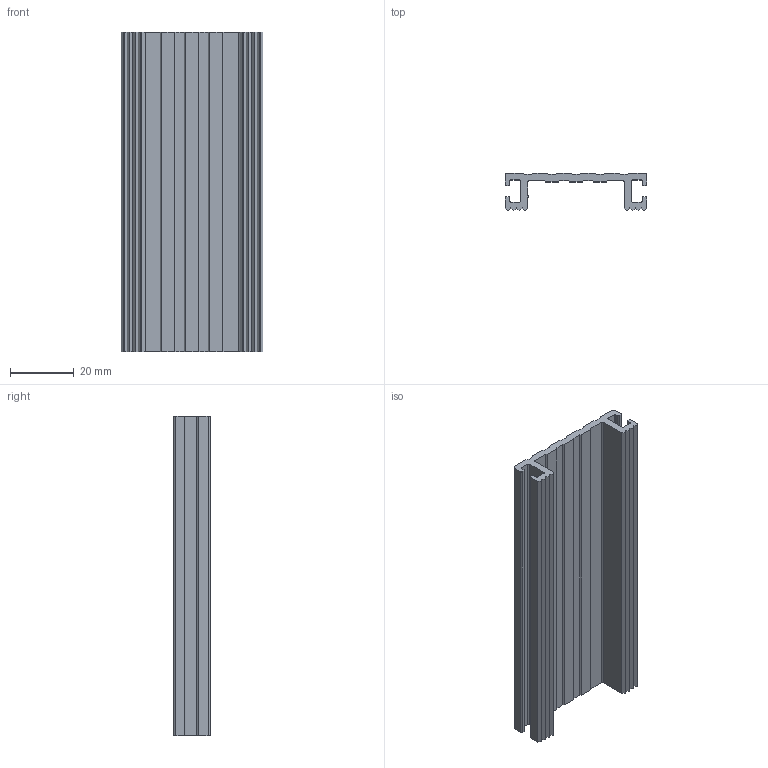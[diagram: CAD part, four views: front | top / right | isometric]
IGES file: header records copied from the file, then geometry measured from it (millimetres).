
Global section: file name: No Iges File Name specified; native system: Autodesk Inventor 2012; preprocessor: AutoDesk Inventor Iges Exporter R2012; author: anna.b; date: 20130718.141638; units: millimetre
Bounding box: 44.45 x 11.7 x 100 mm (x, y, z)
Volume: 17379.7 mm3; surface area: 16929.1 mm2
Topology: 1 solids, 1 shells, 102 faces, 300 edges, 200 vertices
Faces by surface type: plane 81, cylinder 11, revolution 10
